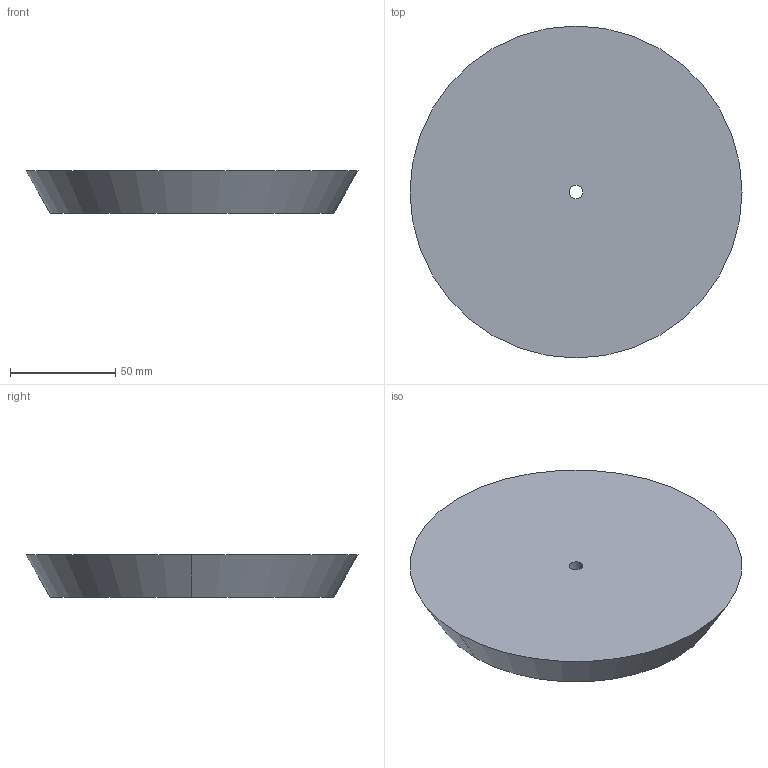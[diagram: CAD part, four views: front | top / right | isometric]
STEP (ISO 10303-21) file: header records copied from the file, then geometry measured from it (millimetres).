
FILE_DESCRIPTION(('CATIA V5 STEP Exchange'),'2;1');
FILE_NAME('C:\Users\andres.garcia\OneDrive - IQS\ASIGNATURAS\DAO\Controles\2223\c0\c1-REQUENA_Joan-tapon.stp','2023-02-03T08:22:06+00:00',('none'),('none'),'CATIA Version 5-6 Release 2013 SP6','CATIA V5 STEP AP203','none');
FILE_SCHEMA(('CONFIG_CONTROL_DESIGN'));
Length unit declared in the file: millimetre
Products named in the file (1): c1-REQUENA_Joan-tapon
Bounding box: 158 x 158 x 20 mm (x, y, z)
Volume: 336946.4 mm3; surface area: 44868.1 mm2
Topology: 1 solids, 1 shells, 6 faces, 12 edges, 8 vertices
Faces by surface type: cylinder 2, plane 2, cone 2
Entity records: 196 total; most frequent: CARTESIAN_POINT 26, ORIENTED_EDGE 24, DIRECTION 22, AXIS2_PLACEMENT_3D 14, EDGE_CURVE 12, CIRCLE 8, EDGE_LOOP 8, VERTEX_POINT 8
